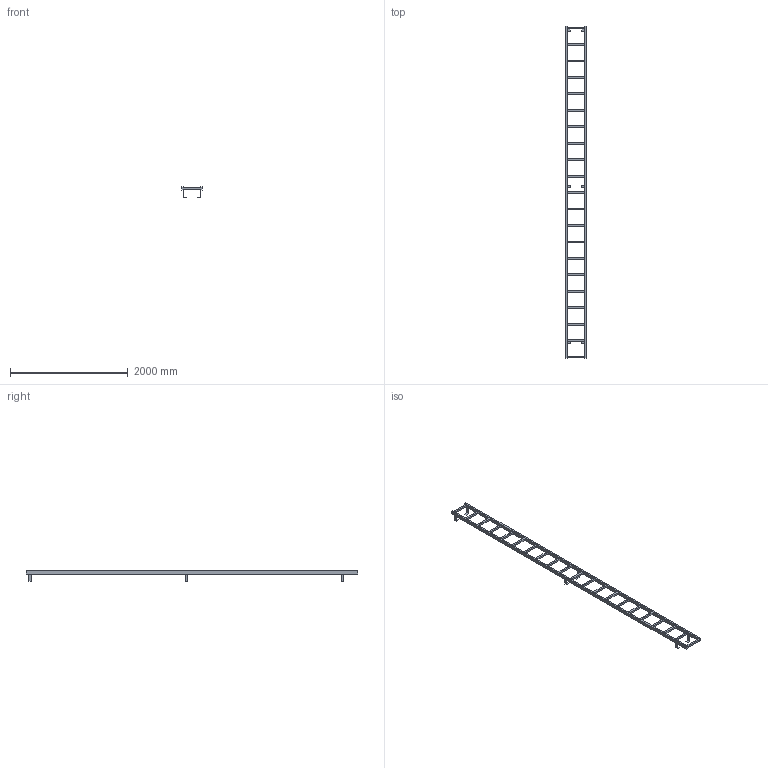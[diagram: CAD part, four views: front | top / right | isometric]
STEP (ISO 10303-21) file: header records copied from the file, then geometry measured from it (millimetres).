
FILE_DESCRIPTION((''),'2;1');
FILE_NAME('017_000109','2017-06-12T',('set'),('HUBER SE'),'PRO/ENGINEER BY PARAMETRIC TECHNOLOGY CORPORATION, 2015280','PRO/ENGINEER BY PARAMETRIC TECHNOLOGY CORPORATION, 2015280','');
FILE_SCHEMA(('CONFIG_CONTROL_DESIGN'));
Length unit declared in the file: millimetre
Products named in the file (1): 017_000109
Bounding box: 350 x 5650 x 178.5 mm (x, y, z)
Volume: 21869940 mm3; surface area: 2666452 mm2
Topology: 1 solids, 1 shells, 142 faces, 517 edges, 373 vertices
Faces by surface type: plane 142
Entity records: 5418 total; most frequent: CARTESIAN_POINT 1094, ORIENTED_EDGE 832, DIRECTION 798, VECTOR 470, LINE 470, EDGE_CURVE 416, VERTEX_POINT 272, EDGE_LOOP 178
